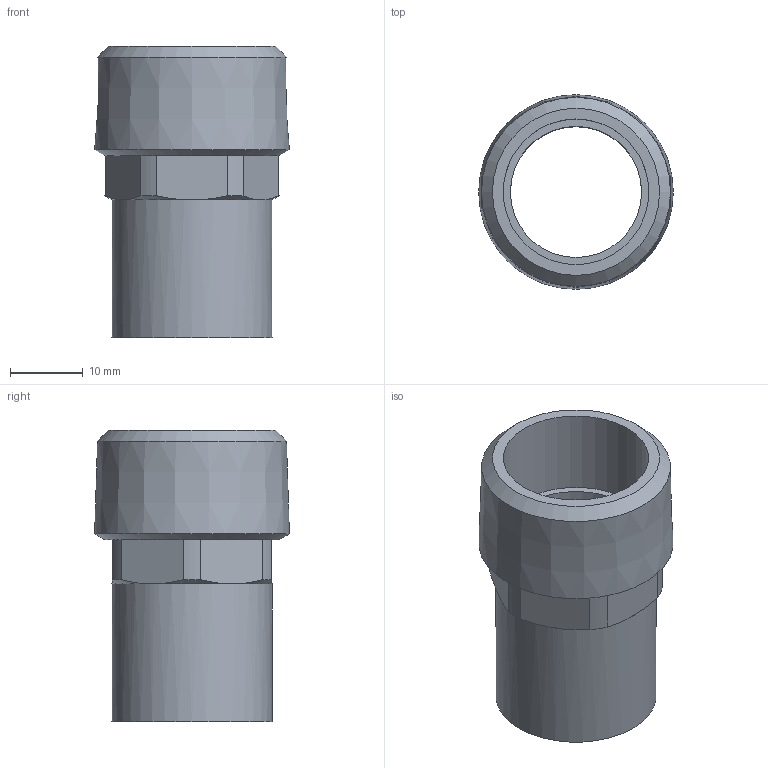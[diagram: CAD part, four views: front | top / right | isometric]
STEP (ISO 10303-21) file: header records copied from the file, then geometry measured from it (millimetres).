
FILE_DESCRIPTION(/* description */ (''),/* implementation_level */ '2;1');
FILE_NAME(/* name */ '14280g_22-34(4).stp',/* time_stamp */ '2024-01-26T15:10:24+01:00',/* author */ ('gomulka'),/* organization */ (''),/* preprocessor_version */ 'ST-DEVELOPER v20',/* originating_system */ 'Autodesk Inventor 2024',/* authorisation */ '');
FILE_SCHEMA (('AUTOMOTIVE_DESIGN { 1 0 10303 214 3 1 1 }'));
Length unit declared in the file: millimetre
Products named in the file (1): R14280g_22-34(4)
Bounding box: 26.73 x 26.73 x 40 mm (x, y, z)
Volume: 6817.5 mm3; surface area: 5776.9 mm2
Topology: 1 solids, 1 shells, 39 faces, 82 edges, 46 vertices
Faces by surface type: plane 21, cylinder 9, cone 9
Full cylindrical faces by diameter (mm): 18 x1, 20 x1, 22 x1
Entity records: 1063 total; most frequent: CARTESIAN_POINT 192, DIRECTION 190, ORIENTED_EDGE 164, EDGE_CURVE 82, AXIS2_PLACEMENT_3D 80, VERTEX_POINT 46, EDGE_LOOP 42, CIRCLE 40
